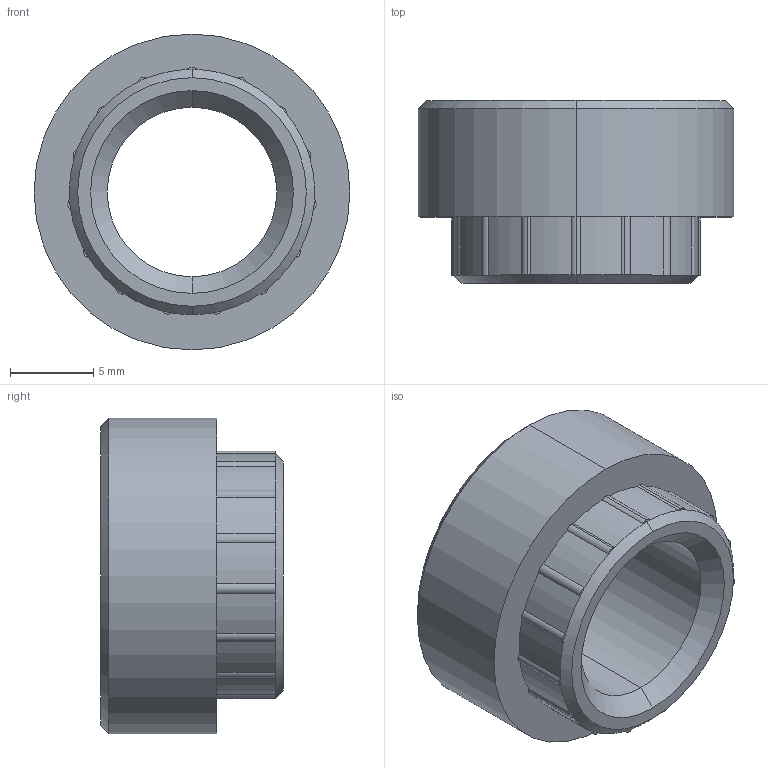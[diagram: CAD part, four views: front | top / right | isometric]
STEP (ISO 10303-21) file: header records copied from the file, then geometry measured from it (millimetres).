
FILE_DESCRIPTION (( 'STEP AP214' ), '1' );
FILE_NAME ('4.NR.01.03.STEP', '2016-10-11T10:52:25', ( '' ), ( '' ), 'SwSTEP 2.0', 'SolidWorks 2015', '' );
FILE_SCHEMA (( 'AUTOMOTIVE_DESIGN' ));
Length unit declared in the file: millimetre
Products named in the file (1): 4.NR.01.03
Bounding box: 19 x 11 x 19 mm (x, y, z)
Volume: 1724.9 mm3; surface area: 1296.6 mm2
Topology: 1 solids, 1 shells, 64 faces, 146 edges, 85 vertices
Faces by surface type: cylinder 38, plane 18, cone 8
Entity records: 1874 total; most frequent: DIRECTION 376, CARTESIAN_POINT 296, ORIENTED_EDGE 292, AXIS2_PLACEMENT_3D 165, EDGE_CURVE 146, CIRCLE 100, VERTEX_POINT 85, EDGE_LOOP 67
